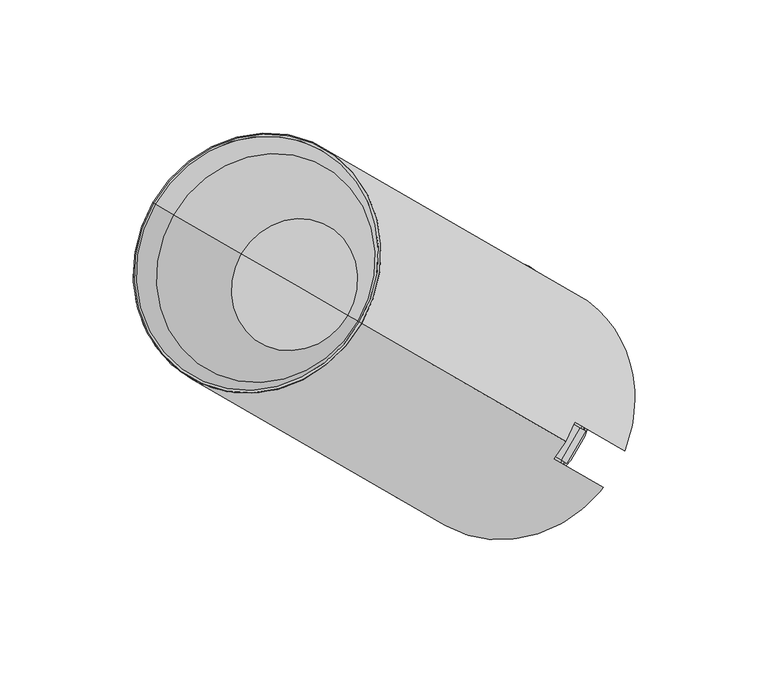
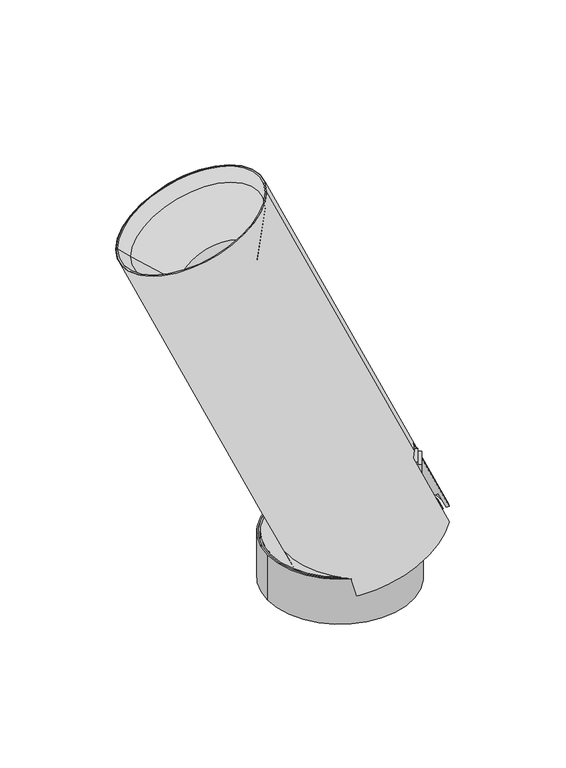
"""IFC4 building model written with IfcOpenShell, lengths in millimetres: light fixture geometry, PIPES C S : 1700 21W-830 28°."""

import ifcopenshell
import ifcopenshell.guid

model = None  # the IFC model being written
_history = None  # IfcOwnerHistory: only IFC2X3 demands one
_inside = {}  # id of a spatial element -> (the spatial element, [elements in it])
_under = {}  # id of a project, library or spatial element -> (it, [spatial elements below it])
_declared = {}  # id of a project -> (the project, [libraries it declares])
_typed = {}  # id of a type object -> (the type object, [elements of that type])
_made_of = {}  # id of a material, layer set ... -> (it, [elements and type objects made of it])


def new_model(schema):
    """Start an empty IFC model of exactly this schema.

    Asked for "IFC4X3", IfcOpenShell would pick the latest addendum, in which some entities
    have other attributes; the version numbers below select the first issue.
    IFC2X3 requires an IfcOwnerHistory on every rooted entity: one is made here for all.
    """
    global model, _history
    if schema == "IFC4X3":
        model = ifcopenshell.file(schema_version=(4, 3, 0, 0))
    else:
        model = ifcopenshell.file(schema=schema)
    _inside.clear()
    _under.clear()
    _declared.clear()
    _typed.clear()
    _made_of.clear()
    _history = None
    if model.schema == "IFC2X3":
        org = make("IfcOrganization", Name="unknown")
        user = make(
            "IfcPersonAndOrganization",
            ThePerson=make("IfcPerson", FamilyName="unknown"),
            TheOrganization=org,
        )
        app = make(
            "IfcApplication",
            ApplicationDeveloper=org,
            Version="unknown",
            ApplicationFullName="unknown",
            ApplicationIdentifier="unknown",
        )
        _history = make(
            "IfcOwnerHistory",
            OwningUser=user,
            OwningApplication=app,
            ChangeAction="ADDED",
            CreationDate=0,
        )
    return model


def make(cls, **values):
    """One entity of the class cls with the attributes given. An attribute that is None is left unset."""
    return model.create_entity(
        cls, **{name: value for name, value in values.items() if value is not None}
    )


def rooted(cls, **values):
    """An entity with a GlobalId (a new one), such as an element, a storey or a relation."""
    return make(cls, GlobalId=ifcopenshell.guid.new(), OwnerHistory=_history, **values)


def si_unit(unit_type, name, prefix=None):
    """IfcSIUnit, for example si_unit("LENGTHUNIT", "METRE", prefix="MILLI")."""
    return make("IfcSIUnit", UnitType=unit_type, Prefix=prefix, Name=name)


def assignment(units):
    """IfcUnitAssignment: the units of a project."""
    return None if units is None else make("IfcUnitAssignment", Units=units)


def point(xyz):
    """IfcCartesianPoint."""
    return None if xyz is None else make("IfcCartesianPoint", Coordinates=xyz)


def direction(xyz):
    """IfcDirection."""
    return None if xyz is None else make("IfcDirection", DirectionRatios=xyz)


def frame(location, z_axis=None, x_axis=None):
    """IfcAxis2Placement3D, a coordinate frame: its origin and axes. An axis left out is left unset."""
    return make(
        "IfcAxis2Placement3D",
        Location=point(location),
        Axis=direction(z_axis),
        RefDirection=direction(x_axis),
    )


def frame_2d(location, x_axis=None):
    """IfcAxis2Placement2D, a coordinate frame in the plane: its origin and x axis."""
    return make(
        "IfcAxis2Placement2D", Location=point(location), RefDirection=direction(x_axis)
    )


def origin():
    """The frame at (0, 0, 0) with its axes left unset."""
    return frame((0.0, 0.0, 0.0))


def origin_with_axes():
    """The frame at (0, 0, 0) with the z axis (0, 0, 1) and the x axis (1, 0, 0) written out."""
    return frame((0.0, 0.0, 0.0), z_axis=(0.0, 0.0, 1.0), x_axis=(1.0, 0.0, 0.0))


def origin_2d():
    """The frame at (0, 0) in the plane with its x axis left unset."""
    return frame_2d((0.0, 0.0))


def place(relative_to, where):
    """IfcLocalPlacement: puts the frame where relative to a parent placement (None: the world)."""
    return make(
        "IfcLocalPlacement", PlacementRelTo=relative_to, RelativePlacement=where
    )


def context(
    kind, dimensions, precision=None, world=None, true_north=None, identifier=None
):
    """IfcGeometricRepresentationContext, for example the 3D "Model" context."""
    return make(
        "IfcGeometricRepresentationContext",
        ContextIdentifier=identifier,
        ContextType=kind,
        CoordinateSpaceDimension=dimensions,
        Precision=precision,
        WorldCoordinateSystem=world,
        TrueNorth=true_north,
    )


def project(units=None, contexts=None):
    """IfcProject with its units and contexts."""
    return rooted(
        "IfcProject",
        Name="project",
        RepresentationContexts=contexts,
        UnitsInContext=assignment(units),
    )


def spatial(cls, under=None, at=None, **own):
    """A site, building, storey or space (cls), placed at a placement, below another one or the project."""
    s = rooted(cls, ObjectPlacement=at, **own)
    if under is not None:
        _under.setdefault(under.id(), (under, []))[1].append(s)
    return s


def polyline(points):
    """IfcPolyline through the points."""
    return make("IfcPolyline", Points=[point(p) for p in points])


def circle_curve(where, radius):
    """IfcCircle in the frame where."""
    return make("IfcCircle", Position=where, Radius=radius)


def trimmed(basis, trim1, trim2, sense, master):
    """IfcTrimmedCurve: the piece of a basis curve between two trims."""
    return make(
        "IfcTrimmedCurve",
        BasisCurve=basis,
        Trim1=trim1,
        Trim2=trim2,
        SenseAgreement=sense,
        MasterRepresentation=master,
    )


def segment(curve, same_sense, transition):
    """IfcCompositeCurveSegment."""
    return make(
        "IfcCompositeCurveSegment",
        Transition=transition,
        SameSense=same_sense,
        ParentCurve=curve,
    )


def composite_curve(segments, self_intersect=None):
    """IfcCompositeCurve: segments joined end to end."""
    return make("IfcCompositeCurve", Segments=segments, SelfIntersect=self_intersect)


def outline(outer, holes=None, kind="AREA"):
    """IfcArbitraryClosedProfileDef: a profile drawn as a closed curve; with holes, ...WithVoids."""
    if holes is None:
        return make("IfcArbitraryClosedProfileDef", ProfileType=kind, OuterCurve=outer)
    return make(
        "IfcArbitraryProfileDefWithVoids",
        ProfileType=kind,
        OuterCurve=outer,
        InnerCurves=holes,
    )


def extrude(swept, where, along, depth):
    """IfcExtrudedAreaSolid: the profile swept, set in the frame where, extruded along a direction by depth."""
    return make(
        "IfcExtrudedAreaSolid",
        SweptArea=swept,
        Position=where,
        ExtrudedDirection=direction(along),
        Depth=depth,
    )


def shape(context_of_items, identifier, shape_type, items):
    """IfcShapeRepresentation: the items that make up one representation, for example the "Body"."""
    return make(
        "IfcShapeRepresentation",
        ContextOfItems=context_of_items,
        RepresentationIdentifier=identifier,
        RepresentationType=shape_type,
        Items=items,
    )


def source(mapping_origin, context_of_items, identifier, shape_type, items):
    """IfcRepresentationMap: a shape defined once, which mapped items show again and again."""
    return make(
        "IfcRepresentationMap",
        MappingOrigin=mapping_origin,
        MappedRepresentation=shape(context_of_items, identifier, shape_type, items),
    )


def transform(
    local_origin,
    x_axis=None,
    y_axis=None,
    z_axis=None,
    scale=None,
    scale2=None,
    scale3=None,
    uniform=True,
):
    """IfcCartesianTransformationOperator3D, or its non-uniform kind. x_axis, y_axis, z_axis: its Axis1, 2, 3."""
    if uniform:
        return make(
            "IfcCartesianTransformationOperator3D",
            Axis1=direction(x_axis),
            Axis2=direction(y_axis),
            LocalOrigin=point(local_origin),
            Scale=scale,
            Axis3=direction(z_axis),
        )
    return make(
        "IfcCartesianTransformationOperator3DnonUniform",
        Axis1=direction(x_axis),
        Axis2=direction(y_axis),
        LocalOrigin=point(local_origin),
        Scale=scale,
        Axis3=direction(z_axis),
        Scale2=scale2,
        Scale3=scale3,
    )


def mapped(mapping_source, mapping_target):
    """IfcMappedItem: shows the shape of a source again, moved by a transform."""
    return make(
        "IfcMappedItem", MappingSource=mapping_source, MappingTarget=mapping_target
    )


def made_of(thing, what):
    """Note that an element or type object is made of a material, layer set ...; save() writes the relation."""
    if what is not None:
        _made_of.setdefault(what.id(), (what, []))[1].append(thing)
    return thing


def element(
    cls,
    number,
    at=None,
    inside=None,
    cuts=None,
    type_object=None,
    material=None,
    context=None,
    identifier="Body",
    shape_type=None,
    held_by="IfcProductDefinitionShape",
    body=None,
    shapes=None,
    **own,
):
    """One element of the class cls, such as IfcWall. Its Tag is "e" and its number.

    at: its placement. inside: the storey or other place that contains it. cuts: it is an
    opening in that element (IfcRelVoidsElement). A single representation is given by context,
    identifier, shape_type and body (its items); several are given by shapes. held_by: the class
    of the entity that holds the representations. save() writes the other relations.
    """
    e = rooted(cls, Tag="e%d" % number, ObjectPlacement=at, **own)
    if body is not None:
        shapes = [shape(context, identifier, shape_type, body)]
    if shapes is not None:
        e.Representation = make(held_by, Representations=shapes)
    if inside is not None:
        _inside.setdefault(inside.id(), (inside, []))[1].append(e)
    if cuts is not None:
        rooted(
            "IfcRelVoidsElement", RelatingBuildingElement=cuts, RelatedOpeningElement=e
        )
    if type_object is not None:
        _typed.setdefault(type_object.id(), (type_object, []))[1].append(e)
    return made_of(e, material)


def aggregate(whole, parts):
    """IfcRelAggregates: a whole, such as a stair, and the parts it consists of."""
    return rooted("IfcRelAggregates", RelatingObject=whole, RelatedObjects=parts)


def save(model, path):
    """Write the relations noted so far, then the file.

    IfcRelAggregates (storeys below a building ...), IfcRelContainedInSpatialStructure (elements
    in a storey), IfcRelDefinesByType, IfcRelAssociatesMaterial and IfcRelDeclares: one each for
    every whole, place, type object, material and project.
    """
    for whole, parts in _under.values():
        aggregate(whole, parts)
    for where, things in _inside.values():
        rooted(
            "IfcRelContainedInSpatialStructure",
            RelatedElements=things,
            RelatingStructure=where,
        )
    for kind, things in _typed.values():
        rooted("IfcRelDefinesByType", RelatedObjects=things, RelatingType=kind)
    for what, things in _made_of.values():
        rooted("IfcRelAssociatesMaterial", RelatedObjects=things, RelatingMaterial=what)
    for by, libraries in _declared.values():
        rooted("IfcRelDeclares", RelatingContext=by, RelatedDefinitions=libraries)
    model.write(path)


def plane_surface(at):
    """IfcPlane: the flat surface through the origin of the frame at, square to its z axis."""
    return make("IfcPlane", Position=at)


def cylinder_surface(at, radius):
    """IfcCylindricalSurface: all points at the distance radius from the z axis of the frame at."""
    return make("IfcCylindricalSurface", Position=at, Radius=radius)


def revolved_surface(curve, axis_point, axis_direction):
    """IfcSurfaceOfRevolution: the curve turned about the line through axis_point along axis_direction."""
    return make(
        "IfcSurfaceOfRevolution",
        SweptCurve=make("IfcArbitraryOpenProfileDef", ProfileType="CURVE", Curve=curve),
        AxisPosition=make("IfcAxis1Placement", Location=point(axis_point), Axis=direction(axis_direction)),
    )


def advanced_brep(points, edges, surfaces, faces):
    """IfcAdvancedBrep: a solid bounded by faces that lie on surfaces and meet in shared edges.

    An edge is (start, end): straight between two places in points (the first is 0);
    or (start, end, curve); or (start, end, curve, False) where it runs against its curve.
    A face is (place in surfaces, loops), or (place, loops, False) where it looks against
    its surface's normal. A loop lists edges by number (the first is 1), with a minus sign
    where the edge is run from its end to its start. The first loop is the outer one.
    """
    corners = [point(p) for p in points]
    vertices = [make("IfcVertexPoint", VertexGeometry=c) for c in corners]
    made = []
    for start, end, *more in edges:
        made.append(
            make(
                "IfcEdgeCurve",
                EdgeStart=vertices[start],
                EdgeEnd=vertices[end],
                EdgeGeometry=more[0] if more else make("IfcPolyline", Points=[corners[start], corners[end]]),
                SameSense=more[1] if len(more) > 1 else True,
            )
        )
    hull = []
    for where, loops, *sense in faces:
        bounds = []
        for j, loop in enumerate(loops):
            ring = [make("IfcOrientedEdge", EdgeElement=made[abs(k) - 1], Orientation=k > 0) for k in loop]
            bounds.append(
                make(
                    "IfcFaceOuterBound" if j == 0 else "IfcFaceBound",
                    Bound=make("IfcEdgeLoop", EdgeList=ring),
                    Orientation=True,
                )
            )
        hull.append(make("IfcAdvancedFace", Bounds=bounds, FaceSurface=surfaces[where], SameSense=sense[0] if sense else True))
    return make("IfcAdvancedBrep", Outer=make("IfcClosedShell", CfsFaces=hull))


def light_fixture_58baf5be(model_context):
    return source(origin(), model_context, "Body", "SolidModel", [
        advanced_brep(
        [(26.7661808, -6.2158574, 83.743203), (41.4061069, -14.6682226, 47.4908916), (55.0071049, -22.5207625, 54.8142905), (59.0330846, -24.845163, 44.8449049), (60.6242144, -25.7638022, 45.7016419), (41.9583087, -14.9870365, 91.923339), (18.7661808, -20.0722639, 83.743203), (33.9583087, -28.843443, 91.923339), (52.6242144, -39.6202086, 45.7016419), (51.0330846, -38.7015694, 44.8449049), (47.0071049, -36.377169, 54.8142905), (33.4061069, -28.5246291, 47.4908916), (37.4061069, -21.5964259, 47.4908916), (38.4638922, -22.2071385, 92.1955683), (-116.5182781, 67.2718592, 239.3520696), (-38.0297213, 21.9564699, 281.6138958), (-38.6628988, 22.3220351, 271.0311313), (-109.0905259, 62.9834445, 233.1096781), (-21.3587589, 12.3314852, 3.712045), (-19.7889877, 11.4251774, 4.5572815), (-23.8149674, 13.7495778, 14.5266671), (13.8595398, -8.0018091, 34.8123437), (-83.2361743, 48.0564277, 213.8885946), (-42.5302208, 24.5548344, 235.8065404), (-62.8831976, 36.305631, 224.8475675)],
        [
            (0, 1),
            (1, 2),
            (2, 3),
            (3, 4),
            (4, 5),
            (5, 0),
            (6, 7),
            (7, 8),
            (8, 9),
            (9, 10),
            (10, 11),
            (11, 6),
            (0, 6),
            (11, 12),
            (12, 1),
            (5, 13, circle_curve(frame((-0.7803862, 0.4505562, 71.0646552), z_axis=(0.36599815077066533, -0.2113091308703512, -0.9063077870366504), x_axis=(0.784885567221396, -0.4531538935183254, 0.42261826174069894)), 50.0)),
            (13, 7, circle_curve(frame((-0.7803862, 0.4505562, 71.0646552), z_axis=(0.36599815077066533, -0.2113091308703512, -0.9063077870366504), x_axis=(0.784885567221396, -0.4531538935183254, 0.42261826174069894)), 50.0)),
            (14, 15, circle_curve(frame((-77.2739997, 44.6141645, 260.4829827), z_axis=(-0.36599815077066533, 0.2113091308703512, 0.9063077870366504), x_axis=(0.784885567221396, -0.4531538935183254, 0.42261826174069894)), 50.0)),
            (15, 16),
            (16, 17, circle_curve(frame((-73.8767124, 42.6527398, 252.0704047), z_axis=(0.36599815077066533, -0.2113091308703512, -0.9063077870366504), x_axis=(0.784885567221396, -0.4531538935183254, 0.42261826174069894)), 44.8649013)),
            (17, 14),
            (15, 14, circle_curve(frame((-77.2739997, 44.6141645, 260.4829827), z_axis=(-0.36599815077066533, 0.2113091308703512, 0.9063077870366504), x_axis=(0.784885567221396, -0.4531538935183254, 0.42261826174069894)), 50.0)),
            (17, 16, circle_curve(frame((-73.8767124, 42.6527398, 252.0704047), z_axis=(0.36599815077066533, -0.2113091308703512, -0.9063077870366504), x_axis=(0.784885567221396, -0.4531538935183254, 0.42261826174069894)), 44.8649013)),
            (14, 18),
            (18, 8, circle_curve(frame((17.8855195, -10.3262095, 24.842958), z_axis=(-0.36599815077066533, 0.2113091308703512, 0.9063077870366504), x_axis=(0.784885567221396, -0.4531538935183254, 0.42261826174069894)), 50.0)),
            (13, 15),
            (4, 18, circle_curve(frame((17.8855195, -10.3262095, 24.842958), z_axis=(-0.36599815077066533, 0.2113091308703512, 0.9063077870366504), x_axis=(0.784885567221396, -0.4531538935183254, 0.42261826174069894)), 50.0)),
            (18, 19),
            (19, 9, circle_curve(frame((17.8855195, -10.3262095, 24.842958), z_axis=(-0.36599815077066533, 0.2113091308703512, 0.9063077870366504), x_axis=(0.784885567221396, -0.4531538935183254, 0.42261826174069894)), 48.0)),
            (3, 19, circle_curve(frame((17.8855195, -10.3262095, 24.842958), z_axis=(-0.36599815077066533, 0.2113091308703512, 0.9063077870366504), x_axis=(0.784885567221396, -0.4531538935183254, 0.42261826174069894)), 48.0)),
            (19, 20),
            (20, 10, circle_curve(frame((13.8595398, -8.0018091, 34.8123437), z_axis=(-0.36599815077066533, 0.2113091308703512, 0.9063077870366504), x_axis=(0.784885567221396, -0.4531538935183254, 0.42261826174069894)), 48.0)),
            (2, 20, circle_curve(frame((13.8595398, -8.0018091, 34.8123437), z_axis=(-0.36599815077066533, 0.2113091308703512, 0.9063077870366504), x_axis=(0.784885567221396, -0.4531538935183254, 0.42261826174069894)), 48.0)),
            (20, 21),
            (21, 12),
            (22, 23, circle_curve(frame((-62.8831976, 36.305631, 224.8475675), z_axis=(-0.36599815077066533, 0.2113091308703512, 0.9063077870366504), x_axis=(0.784885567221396, -0.4531538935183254, 0.42261826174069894)), 25.931139)),
            (23, 24),
            (24, 22),
            (23, 22, circle_curve(frame((-62.8831976, 36.305631, 224.8475675), z_axis=(-0.36599815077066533, 0.2113091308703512, 0.9063077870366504), x_axis=(0.784885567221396, -0.4531538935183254, 0.42261826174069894)), 25.931139)),
            (16, 23),
            (22, 17),
        ],
        [
            plane_surface(frame((26.7661808, -6.2158574, 83.743203), z_axis=(-0.500000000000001, -0.8660254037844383, 0.0), x_axis=(-0.36599815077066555, 0.21130913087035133, 0.9063077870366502))),
            plane_surface(frame((18.7661808, -20.0722639, 83.743203), z_axis=(0.500000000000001, 0.8660254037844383, 0.0), x_axis=(0.36599815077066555, -0.21130913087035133, -0.9063077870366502))),
            plane_surface(frame((18.7661808, -20.0722639, 83.743203), z_axis=(0.784885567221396, -0.45315389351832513, 0.42261826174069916), x_axis=(0.5000000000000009, 0.8660254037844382, 0.0))),
            plane_surface(frame((38.38832, -31.4011112, 94.3086596), z_axis=(0.3659981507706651, -0.21130913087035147, -0.9063077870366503), x_axis=(0.5000000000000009, 0.8660254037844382, 0.0))),
            revolved_surface(polyline([(-38.6628988, 22.3220351, 271.0311313), (-38.0297213, 21.9564699, 281.6138958)]), (19.8810808, -11.4783474, 19.9014227), (0.3659981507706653, -0.21130913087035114, -0.9063077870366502)),
            cylinder_surface(frame((19.8810808, -11.4783474, 19.9014227), z_axis=(0.3659981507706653, -0.21130913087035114, -0.9063077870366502), x_axis=(0.784885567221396, -0.4531538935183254, 0.42261826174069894)), 50.0),
            plane_surface(frame((17.8855195, -10.3262095, 24.842958), z_axis=(0.36599815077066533, -0.2113091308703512, -0.9063077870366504), x_axis=(0.784885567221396, -0.45315389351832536, 0.4226182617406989))),
            revolved_surface(polyline([(55.56002669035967, -32.07759641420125, 45.128634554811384), (51.53404701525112, -29.75319596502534, 55.098020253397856)]), (19.8810808, -11.4783474, 19.9014227), (0.3659981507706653, -0.21130913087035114, -0.9063077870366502)),
            plane_surface(frame((13.8595398, -8.0018091, 34.8123437), z_axis=(0.36599815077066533, -0.2113091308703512, -0.9063077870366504), x_axis=(0.784885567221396, -0.45315389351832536, 0.4226182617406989))),
            plane_surface(frame((-62.8831976, 36.305631, 224.8475675), z_axis=(-0.36599815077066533, 0.2113091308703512, 0.9063077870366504), x_axis=(0.784885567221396, -0.45315389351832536, 0.4226182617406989))),
            revolved_surface(polyline([(-42.5302208, 24.5548344, 235.8065404), (-38.6628988, 22.3220351, 271.0311313)]), (19.8810808, -11.4783474, 19.9014227), (0.3659981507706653, -0.21130913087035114, -0.9063077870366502)),
        ],
        [
            (0, [[1, 2, 3, 4, 5, 6]]),
            (1, [[7, 8, 9, 10, 11, 12]]),
            (2, [[13, -12, 14, 15, -1]]),
            (3, [[-13, -6, 16, 17, -7]]),
            (4, [[18, 19, 20, 21]]),
            (4, [[-19, 22, -21, 23]]),
            (5, [[-18, 24, 25, -8, -17, 26]]),
            (5, [[-22, -26, -16, -5, 27, -24]]),
            (6, [[28, 29, -9, -25]]),
            (6, [[-28, -27, -4, 30]]),
            (7, [[31, 32, -10, -29]]),
            (7, [[-31, -30, -3, 33]]),
            (8, [[34, 35, -14, -11, -32]]),
            (8, [[-34, -33, -2, -15, -35]]),
            (9, [[36, 37, 38]]),
            (9, [[-37, 39, -38]]),
            (10, [[-20, 40, -36, 41]]),
            (10, [[-23, -41, -39, -40]]),
        ],
    ),
        advanced_brep(
        [(44.7000902, -16.5700048, 39.3341215), (45.4320865, -16.9926231, 37.5215059), (57.4390376, -23.9248395, 43.9865972), (56.7070413, -23.5022213, 45.7992127), (37.4320865, -30.8490295, 37.5215059), (36.7000902, -30.4264113, 39.3341215), (48.7070413, -37.3586277, 45.7992127), (49.4390376, -37.781246, 43.9865972), (40.7000902, -23.498208, 39.3341215), (41.4320865, -23.9208263, 37.5215059), (16.8900521, -9.7514761, 26.5137088), (-19.4731658, 11.2428375, 6.9340903), (-18.7411695, 10.8202193, 5.1214747), (17.6220484, -10.1740944, 24.7010932)],
        [
            (0, 1),
            (1, 2),
            (2, 3),
            (3, 0),
            (4, 5),
            (5, 6),
            (6, 7),
            (7, 4),
            (0, 8),
            (8, 5),
            (4, 9),
            (9, 1),
            (10, 11),
            (11, 6, circle_curve(frame((16.8900521, -9.7514761, 26.5137088), z_axis=(-0.36599815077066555, 0.21130913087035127, 0.9063077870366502), x_axis=(0.784885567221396, -0.4531538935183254, 0.4226182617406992)), 46.3293243)),
            (8, 10),
            (3, 11, circle_curve(frame((16.8900521, -9.7514761, 26.5137088), z_axis=(-0.36599815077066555, 0.21130913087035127, 0.9063077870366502), x_axis=(0.784885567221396, -0.4531538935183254, 0.4226182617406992)), 46.3293243)),
            (11, 12),
            (12, 7, circle_curve(frame((17.6220484, -10.1740944, 24.7010932), z_axis=(-0.36599815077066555, 0.21130913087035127, 0.9063077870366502), x_axis=(0.784885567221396, -0.4531538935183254, 0.4226182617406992)), 46.3293243)),
            (2, 12, circle_curve(frame((17.6220484, -10.1740944, 24.7010932), z_axis=(-0.36599815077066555, 0.21130913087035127, 0.9063077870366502), x_axis=(0.784885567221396, -0.4531538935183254, 0.4226182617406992)), 46.3293243)),
            (12, 13),
            (13, 9),
        ],
        [
            plane_surface(frame((26.7661808, -6.2158574, 83.743203), z_axis=(-0.500000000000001, -0.8660254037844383, 0.0), x_axis=(-0.36599815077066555, 0.21130913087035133, 0.9063077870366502))),
            plane_surface(frame((18.7661808, -20.0722639, 83.743203), z_axis=(0.500000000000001, 0.8660254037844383, 0.0), x_axis=(0.36599815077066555, -0.21130913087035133, -0.9063077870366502))),
            plane_surface(frame((18.7661808, -20.0722639, 83.743203), z_axis=(0.784885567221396, -0.45315389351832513, 0.42261826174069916), x_axis=(0.5000000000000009, 0.8660254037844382, 0.0))),
            plane_surface(frame((16.8900521, -9.7514761, 26.5137088), z_axis=(-0.36599815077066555, 0.2113091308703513, 0.9063077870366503), x_axis=(0.7848855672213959, -0.4531538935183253, 0.4226182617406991))),
            cylinder_surface(frame((19.6176098, -11.3262323, 19.7595579), z_axis=(0.36599815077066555, -0.21130913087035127, -0.9063077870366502), x_axis=(0.784885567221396, -0.4531538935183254, 0.4226182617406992)), 46.3293243),
            plane_surface(frame((17.6220484, -10.1740944, 24.7010932), z_axis=(0.36599815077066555, -0.2113091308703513, -0.9063077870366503), x_axis=(0.7848855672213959, -0.4531538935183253, 0.4226182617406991))),
        ],
        [
            (0, [[1, 2, 3, 4]]),
            (1, [[5, 6, 7, 8]]),
            (2, [[-1, 9, 10, -5, 11, 12]]),
            (3, [[13, 14, -6, -10, 15]]),
            (3, [[-13, -15, -9, -4, 16]]),
            (4, [[17, 18, -7, -14]]),
            (4, [[-17, -16, -3, 19]]),
            (5, [[20, 21, -11, -8, -18]]),
            (5, [[-20, -19, -2, -12, -21]]),
        ],
    ),
        advanced_brep(
        [(-116.5182781, 67.2718592, 239.3520696), (-38.0297213, 21.9564699, 281.6138958), (-38.9267082, 22.4743454, 281.1309171), (-115.6212913, 66.7539836, 239.8350483), (-83.1691169, 48.0177121, 215.0280793), (-43.3292745, 25.0161683, 236.4796713), (-63.2491957, 36.5169402, 225.7538753), (-108.6009085, 62.7007637, 233.935016), (-39.5251595, 22.8198615, 271.1285563), (-109.0905259, 62.9834445, 233.1096781), (-38.6628988, 22.3220351, 271.0311313), (-83.2361743, 48.0564277, 213.8885946), (-42.5302208, 24.5548344, 235.8065404), (-62.8831976, 36.305631, 224.8475675)],
        [
            (0, 1, circle_curve(frame((-77.2739997, 44.6141645, 260.4829827), z_axis=(-0.3659981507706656, 0.21130913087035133, 0.9063077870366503), x_axis=(0.784885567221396, -0.45315389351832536, 0.4226182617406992)), 50.0)),
            (1, 2),
            (2, 3, circle_curve(frame((-77.2739997, 44.6141645, 260.4829827), z_axis=(0.3659981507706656, -0.21130913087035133, -0.9063077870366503), x_axis=(0.784885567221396, -0.45315389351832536, 0.4226182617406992)), 48.857175)),
            (3, 0),
            (1, 0, circle_curve(frame((-77.2739997, 44.6141645, 260.4829827), z_axis=(-0.3659981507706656, 0.21130913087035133, 0.9063077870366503), x_axis=(0.784885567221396, -0.45315389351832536, 0.4226182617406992)), 50.0)),
            (3, 2, circle_curve(frame((-77.2739997, 44.6141645, 260.4829827), z_axis=(0.3659981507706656, -0.21130913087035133, -0.9063077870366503), x_axis=(0.784885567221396, -0.45315389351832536, 0.4226182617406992)), 48.857175)),
            (4, 5, circle_curve(frame((-63.2491957, 36.5169402, 225.7538753), z_axis=(-0.3659981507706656, 0.21130913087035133, 0.9063077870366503), x_axis=(0.784885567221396, -0.45315389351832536, 0.4226182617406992)), 25.3793955)),
            (5, 6),
            (6, 4),
            (5, 4, circle_curve(frame((-63.2491957, 36.5169402, 225.7538753), z_axis=(-0.3659981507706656, 0.21130913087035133, 0.9063077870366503), x_axis=(0.784885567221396, -0.45315389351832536, 0.4226182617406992)), 25.3793955)),
            (7, 8, circle_curve(frame((-74.063034, 42.7603126, 252.5317862), z_axis=(-0.3659981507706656, 0.21130913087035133, 0.9063077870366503), x_axis=(0.784885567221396, -0.45315389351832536, 0.4226182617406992)), 44.0037069)),
            (8, 5),
            (4, 7),
            (8, 7, circle_curve(frame((-74.063034, 42.7603126, 252.5317862), z_axis=(-0.3659981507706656, 0.21130913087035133, 0.9063077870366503), x_axis=(0.784885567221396, -0.45315389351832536, 0.4226182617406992)), 44.0037069)),
            (9, 10, circle_curve(frame((-73.8767124, 42.6527398, 252.0704047), z_axis=(-0.3659981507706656, 0.21130913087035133, 0.9063077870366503), x_axis=(0.784885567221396, -0.45315389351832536, 0.4226182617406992)), 44.8649013)),
            (10, 1),
            (0, 9),
            (10, 9, circle_curve(frame((-73.8767124, 42.6527398, 252.0704047), z_axis=(-0.3659981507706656, 0.21130913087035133, 0.9063077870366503), x_axis=(0.784885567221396, -0.45315389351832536, 0.4226182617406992)), 44.8649013)),
            (11, 12, circle_curve(frame((-62.8831976, 36.305631, 224.8475675), z_axis=(-0.3659981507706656, 0.21130913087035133, 0.9063077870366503), x_axis=(0.784885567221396, -0.45315389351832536, 0.4226182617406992)), 25.931139)),
            (12, 10),
            (9, 11),
            (12, 11, circle_curve(frame((-62.8831976, 36.305631, 224.8475675), z_axis=(-0.3659981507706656, 0.21130913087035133, 0.9063077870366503), x_axis=(0.784885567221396, -0.45315389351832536, 0.4226182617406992)), 25.931139)),
            (13, 12),
            (11, 13),
            (2, 8),
            (7, 3),
        ],
        [
            plane_surface(frame((-77.2739997, 44.6141645, 260.4829827), z_axis=(-0.3659981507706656, 0.21130913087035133, 0.9063077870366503), x_axis=(0.7848855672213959, -0.4531538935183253, 0.42261826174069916))),
            plane_surface(frame((-63.2491957, 36.5169402, 225.7538753), z_axis=(-0.3659981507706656, 0.21130913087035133, 0.9063077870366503), x_axis=(0.7848855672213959, -0.4531538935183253, 0.42261826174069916))),
            revolved_surface(polyline([(-43.3292745, 25.0161683, 236.4796713), (-39.5251595, 22.8198615, 271.1285563)]), (20.1789465, -11.6503202, 19.163829), (0.36599815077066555, -0.21130913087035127, -0.90630778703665)),
            revolved_surface(polyline([(-38.0297213, 21.9564699, 281.6138958), (-38.6628988, 22.3220351, 271.0311313)]), (20.1789465, -11.6503202, 19.163829), (0.36599815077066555, -0.21130913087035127, -0.90630778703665)),
            revolved_surface(polyline([(-38.6628988, 22.3220351, 271.0311313), (-42.5302208, 24.5548344, 235.8065404)]), (20.1789465, -11.6503202, 19.163829), (0.36599815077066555, -0.21130913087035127, -0.90630778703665)),
            plane_surface(frame((-62.8831976, 36.305631, 224.8475675), z_axis=(0.3659981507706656, -0.21130913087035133, -0.9063077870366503), x_axis=(0.7848855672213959, -0.4531538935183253, 0.42261826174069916))),
            revolved_surface(polyline([(-39.5251595, 22.8198615, 271.1285563), (-38.9267082, 22.4743454, 281.1309171)]), (20.1789465, -11.6503202, 19.163829), (0.36599815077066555, -0.21130913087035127, -0.90630778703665)),
        ],
        [
            (0, [[1, 2, 3, 4]]),
            (0, [[5, -4, 6, -2]]),
            (1, [[7, 8, 9]]),
            (1, [[10, -9, -8]]),
            (2, [[11, 12, -7, 13]]),
            (2, [[14, -13, -10, -12]]),
            (3, [[15, 16, -1, 17]]),
            (3, [[18, -17, -5, -16]]),
            (4, [[19, 20, -15, 21]]),
            (4, [[22, -21, -18, -20]]),
            (5, [[23, -19, 24]]),
            (5, [[-24, -22, -23]]),
            (6, [[-3, 25, -11, 26]]),
            (6, [[-6, -26, -14, -25]]),
        ],
    ),
        extrude(outline(composite_curve([segment(trimmed(circle_curve(origin_2d(), 48.0), [point((-24.0, -41.5692194))], [point((24.0, 41.5692194))], False, "CARTESIAN"), True, "CONTINUOUS"), segment(trimmed(circle_curve(origin_2d(), 48.0), [point((24.0, 41.5692194))], [point((-24.0, -41.5692194))], False, "CARTESIAN"), True, "CONTINUOUS")], self_intersect=False)), origin_with_axes(), (0.0, 0.0, 1.0), 33.0),
        extrude(outline(composite_curve([segment(polyline([(0.2983896, -17.0947277), (-46.2490169, -17.0947277), (-46.2490169, 1.8978256), (7.5438399, 1.8978256), (7.5438399, -0.6021744), (9.7509831, -0.6021744), (8.4667604, -9.7398936)]), True, "CONTINUOUS"), segment(trimmed(circle_curve(frame_2d((0.0, -8.549968)), 8.5499681), [point((8.4667604, -9.7398936))], [point((0.2983896, -17.0947277))], False, "CARTESIAN"), True, "CONTINUOUS")], self_intersect=False)), frame((37.2916796, -29.613265, 79.2490169), z_axis=(0.5000000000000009, 0.8660254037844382, 0.0), x_axis=(0.0, 0.0, 1.0)), (0.0, 0.0, 1.0), 14.0),
        extrude(outline(composite_curve([segment(trimmed(circle_curve(origin_2d(), 50.0), [point((-50.0, 0.0))], [point((50.0, 0.0))], False, "CARTESIAN"), True, "CONTINUOUS"), segment(trimmed(circle_curve(origin_2d(), 50.0), [point((50.0, 0.0))], [point((-50.0, 0.0))], False, "CARTESIAN"), True, "CONTINUOUS")], self_intersect=False), holes=[composite_curve([segment(trimmed(circle_curve(origin_2d(), 49.0), [point((-49.0, 0.0))], [point((49.0, 0.0))], True, "CARTESIAN"), True, "CONTINUOUS"), segment(trimmed(circle_curve(origin_2d(), 49.0), [point((49.0, 0.0))], [point((-49.0, 0.0))], True, "CARTESIAN"), True, "CONTINUOUS")], self_intersect=False)]), origin_with_axes(), (0.0, 0.0, 1.0), 33.0),
    ])


if __name__ == "__main__":
    model = new_model("IFC4")
    model_context = context("Model", 3, world=origin())
    ifc_project = project(units=[si_unit("LENGTHUNIT", "METRE", prefix="MILLI")], contexts=[model_context])
    site = spatial("IfcSite", under=ifc_project)
    building = spatial("IfcBuilding", under=site)
    placement = place(None, origin())
    light_fixture_shape = light_fixture_58baf5be(model_context)
    element("IfcLightFixture", 1, ObjectType="PIPES C S : 1700 21W-830 28°", at=placement, inside=building, context=model_context, shape_type="MappedRepresentation", body=[
        mapped(light_fixture_shape, transform((0.0, 0.0, 0.0), x_axis=(1.0, 0.0, 0.0), y_axis=(0.0, 1.0, 0.0), z_axis=(0.0, 0.0, 1.0))),
    ])
    save(model, "model.ifc")
